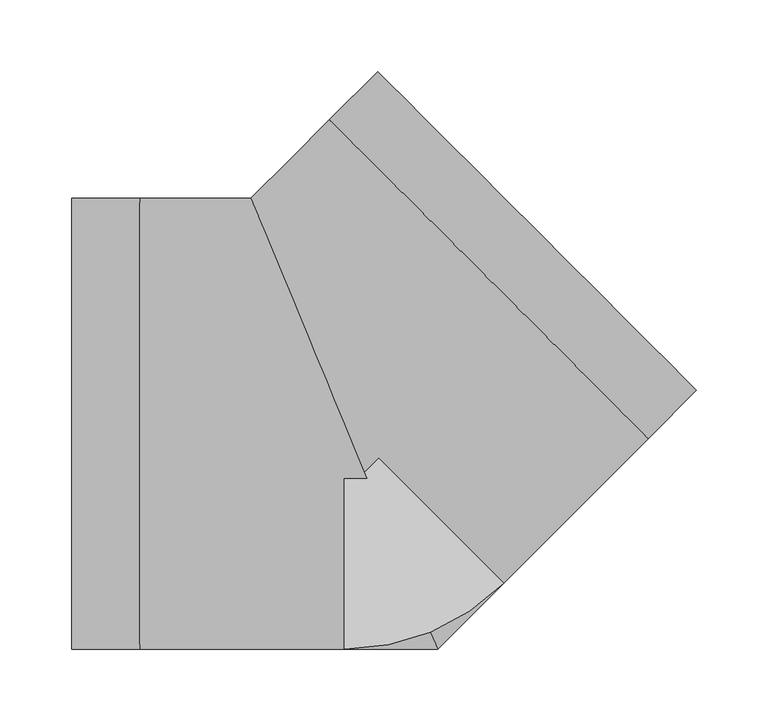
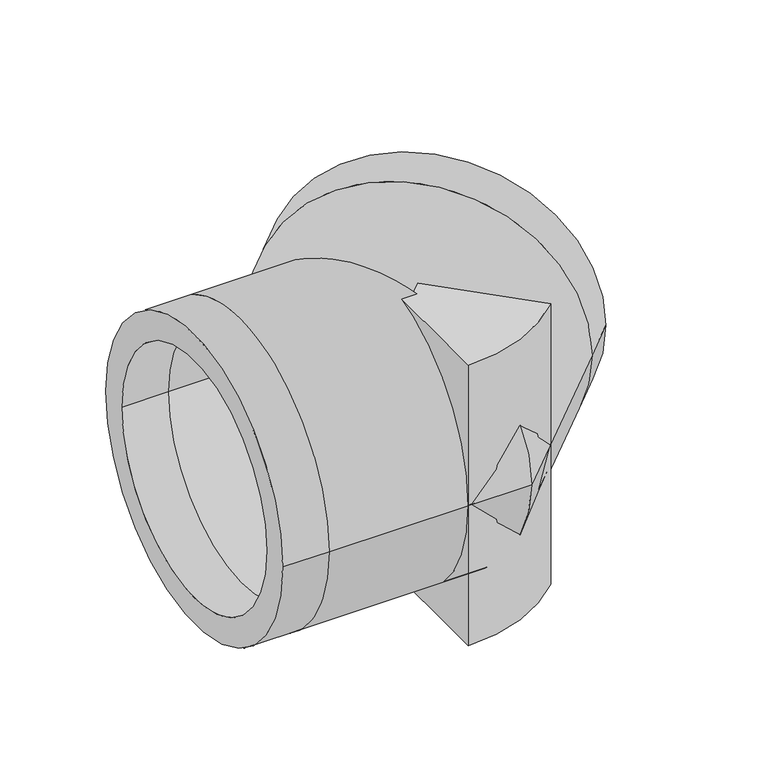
"""IFC4 building model written with IfcOpenShell, lengths in millimetres: pipe fitting geometry, Aquatherm - Elbow Green BW Segmented : SDR 11 NON-FASER."""

from ifc_helpers import new_model, si_unit, point, frame, origin, origin_with_axes, origin_2d, place, context, project, spatial, polyline, circle_curve, ellipse_curve, trimmed, segment, composite_curve, outline, extrude, source, transform, mapped, element, save
from ifc_brep_helpers import plane_surface, cylinder_surface, revolved_surface, advanced_brep


def pipe_fitting_091fbffe(model_context):
    return source(origin(), model_context, "Body", "SolidModel", [
        extrude(outline(composite_curve([segment(polyline([(0.0, -157.48), (0.0, 0.0), (111.3551759, -111.3551759)]), True, "CONTINUOUS"), segment(trimmed(circle_curve(origin_2d(), 157.48), [point((111.3551759, -111.3551759))], [point((0.0, -157.48))], False, "CARTESIAN"), True, "CONTINUOUS")], self_intersect=False)), frame((0.0, 0.0, -152.4), z_axis=(0.0, 0.0, 1.0), x_axis=(1.0, 0.0, 0.0)), (0.0, 0.0, 1.0), 152.4),
        extrude(outline(composite_curve([segment(trimmed(circle_curve(origin_2d(), 157.48), [point((111.3551759, -111.3551759))], [point((0.0, -157.48))], False, "CARTESIAN"), True, "CONTINUOUS"), segment(polyline([(0.0, -157.48), (0.0, 0.0), (111.3551759, -111.3551759)]), True, "CONTINUOUS")], self_intersect=False)), origin_with_axes(), (0.0, 0.0, 1.0), 152.4),
        advanced_brep(
        [(-190.5, -157.48, 0.0), (-190.5, 157.48, 0.0), (-190.5, -128.8472727, 0.0), (-190.5, 128.8472727, 0.0), (246.0590177, 23.3486659, 0.0), (23.3486659, 246.0590177, 0.0), (225.8126221, 43.5950615, 0.0), (43.5950615, 225.8126221, 0.0), (-142.875, -157.48, 0.0), (-142.875, 157.48, 0.0), (-142.875, -128.8472727, 0.0), (-142.875, 128.8472727, 0.0), (65.2303518, -157.48, 0.0), (-65.2303518, 157.48, 0.0), (53.3702878, -128.8472727, 0.0), (-53.3702878, 128.8472727, 0.0), (212.3830573, -10.3272945, 0.0), (-10.3272945, 212.3830573, 0.0), (192.1366616, 9.9191011, 0.0), (9.9191011, 192.1366616, 0.0)],
        [
            (0, 1, circle_curve(frame((-190.5, 0.0, 0.0), z_axis=(-1.0, 0.0, 0.0), x_axis=(0.0, 1.0, 0.0)), 157.48)),
            (1, 0, circle_curve(frame((-190.5, 0.0, 0.0), z_axis=(-1.0, 0.0, 0.0), x_axis=(0.0, 1.0, 0.0)), 157.48)),
            (2, 3, circle_curve(frame((-190.5, 0.0, 0.0), z_axis=(1.0, 0.0, 0.0), x_axis=(0.0, 1.0, 0.0)), 128.8472727)),
            (3, 2, circle_curve(frame((-190.5, 0.0, 0.0), z_axis=(1.0, 0.0, 0.0), x_axis=(0.0, 1.0, 0.0)), 128.8472727)),
            (4, 5, circle_curve(frame((134.7038418, 134.7038418, 0.0), z_axis=(0.7071067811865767, 0.7071067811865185, 0.0), x_axis=(-0.7071067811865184, 0.7071067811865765, 0.0)), 157.48)),
            (5, 4, circle_curve(frame((134.7038418, 134.7038418, 0.0), z_axis=(0.7071067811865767, 0.7071067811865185, 0.0), x_axis=(-0.7071067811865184, 0.7071067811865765, 0.0)), 157.48)),
            (6, 7, circle_curve(frame((134.7038418, 134.7038418, 0.0), z_axis=(-0.7071067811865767, -0.7071067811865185, 0.0), x_axis=(-0.7071067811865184, 0.7071067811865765, 0.0)), 128.8472727)),
            (7, 6, circle_curve(frame((134.7038418, 134.7038418, 0.0), z_axis=(-0.7071067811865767, -0.7071067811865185, 0.0), x_axis=(-0.7071067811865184, 0.7071067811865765, 0.0)), 128.8472727)),
            (0, 8),
            (8, 9, circle_curve(frame((-142.875, 0.0, 0.0), z_axis=(-1.0, 0.0, 0.0), x_axis=(0.0, 1.0, 0.0)), 157.48)),
            (9, 1),
            (9, 8, circle_curve(frame((-142.875, 0.0, 0.0), z_axis=(-1.0, 0.0, 0.0), x_axis=(0.0, 1.0, 0.0)), 157.48)),
            (2, 10),
            (10, 11, circle_curve(frame((-142.875, 0.0, 0.0), z_axis=(1.0, 0.0, 0.0), x_axis=(0.0, 1.0, 0.0)), 128.8472727)),
            (11, 3),
            (11, 10, circle_curve(frame((-142.875, 0.0, 0.0), z_axis=(1.0, 0.0, 0.0), x_axis=(0.0, 1.0, 0.0)), 128.8472727)),
            (8, 12),
            (12, 13, ellipse_curve(frame((0.0, 0.0, 0.0), z_axis=(-0.9238795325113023, -0.38268343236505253, 0.0), x_axis=(-0.3826834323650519, 0.9238795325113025, 0.0)), 170.4551237, 157.48)),
            (13, 9),
            (13, 12, ellipse_curve(frame((0.0, 0.0, 0.0), z_axis=(-0.9238795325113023, -0.38268343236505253, 0.0), x_axis=(-0.3826834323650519, 0.9238795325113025, 0.0)), 170.4551237, 157.48)),
            (10, 14),
            (14, 15, ellipse_curve(frame((0.0, 0.0, 0.0), z_axis=(0.9238795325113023, 0.38268343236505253, 0.0), x_axis=(0.3826834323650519, -0.9238795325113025, 0.0)), 139.463283, 128.8472727)),
            (15, 11),
            (15, 14, ellipse_curve(frame((0.0, 0.0, 0.0), z_axis=(0.9238795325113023, 0.38268343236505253, 0.0), x_axis=(0.3826834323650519, -0.9238795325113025, 0.0)), 139.463283, 128.8472727)),
            (12, 16),
            (16, 17, circle_curve(frame((101.0278814, 101.0278814, 0.0), z_axis=(-0.7071067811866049, -0.7071067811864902, 0.0), x_axis=(-0.7071067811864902, 0.7071067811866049, 0.0)), 157.48)),
            (17, 13),
            (17, 16, circle_curve(frame((101.0278814, 101.0278814, 0.0), z_axis=(-0.7071067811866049, -0.7071067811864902, 0.0), x_axis=(-0.7071067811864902, 0.7071067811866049, 0.0)), 157.48)),
            (14, 18),
            (18, 19, circle_curve(frame((101.0278814, 101.0278814, 0.0), z_axis=(0.7071067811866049, 0.7071067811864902, 0.0), x_axis=(-0.7071067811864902, 0.7071067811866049, 0.0)), 128.8472727)),
            (19, 15),
            (19, 18, circle_curve(frame((101.0278814, 101.0278814, 0.0), z_axis=(0.7071067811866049, 0.7071067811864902, 0.0), x_axis=(-0.7071067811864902, 0.7071067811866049, 0.0)), 128.8472727)),
            (16, 4),
            (5, 17),
            (18, 6),
            (7, 19),
        ],
        [
            plane_surface(frame((-190.5, 0.0, 0.0), z_axis=(-1.0, 0.0, 0.0), x_axis=(0.0, 0.0, 1.0))),
            plane_surface(frame((134.7038418, 134.7038418, 0.0), z_axis=(0.7071067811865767, 0.7071067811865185, 0.0), x_axis=(0.0, 0.0, 1.0))),
            cylinder_surface(frame((-190.5, 0.0, 0.0), z_axis=(-1.0, 0.0, 0.0), x_axis=(0.0, 1.0, 0.0)), 157.48),
            revolved_surface(polyline([(-142.875, 128.8472727, 0.0), (-190.5, 128.8472727, 0.0)]), (-190.5, 0.0, 0.0), (1.0, 0.0, 0.0)),
            cylinder_surface(frame((-142.875, 0.0, 0.0), z_axis=(-1.0, 0.0, 0.0), x_axis=(0.0, 1.0, 0.0)), 157.48),
            revolved_surface(polyline([(53.370287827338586, 128.8472727, 0.0), (-142.875, 128.8472727, 0.0)]), (-142.875, 0.0, 0.0), (1.0, 0.0, 0.0)),
            cylinder_surface(frame((0.0, 0.0, 0.0), z_axis=(-0.7071067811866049, -0.7071067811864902, 0.0), x_axis=(-0.7071067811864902, 0.7071067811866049, 0.0)), 157.48),
            revolved_surface(polyline([(9.919101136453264, 192.13666166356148, 0.0), (-128.84727271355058, 53.370287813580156, 0.0)]), (0.0, 0.0, 0.0), (0.7071067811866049, 0.7071067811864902, 0.0)),
            cylinder_surface(frame((101.0278814, 101.0278814, 0.0), z_axis=(-0.7071067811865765, -0.7071067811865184, 0.0), x_axis=(-0.7071067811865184, 0.7071067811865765, 0.0)), 157.48),
            revolved_surface(polyline([(43.59506153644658, 225.8126220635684, 0.0), (9.9191010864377, 192.1366616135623, 0.0)]), (101.0278814, 101.0278814, 0.0), (0.7071067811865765, 0.7071067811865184, 0.0)),
        ],
        [
            (0, [[1, 2], [3, 4]]),
            (1, [[5, 6], [7, 8]]),
            (2, [[-1, 9, 10, 11]]),
            (2, [[-2, -11, 12, -9]]),
            (3, [[-3, 13, 14, 15]]),
            (3, [[-4, -15, 16, -13]]),
            (4, [[-10, 17, 18, 19]]),
            (4, [[-12, -19, 20, -17]]),
            (5, [[-14, 21, 22, 23]]),
            (5, [[-16, -23, 24, -21]]),
            (6, [[-18, 25, 26, 27]]),
            (6, [[-20, -27, 28, -25]]),
            (7, [[-22, 29, 30, 31]]),
            (7, [[-24, -31, 32, -29]]),
            (8, [[-26, 33, -6, 34]]),
            (8, [[-28, -34, -5, -33]]),
            (9, [[-30, 35, -8, 36]]),
            (9, [[-32, -36, -7, -35]]),
        ],
    ),
    ])


if __name__ == "__main__":
    model = new_model("IFC4")
    model_context = context("Model", 3, world=origin())
    ifc_project = project(units=[si_unit("LENGTHUNIT", "METRE", prefix="MILLI")], contexts=[model_context])
    site = spatial("IfcSite", under=ifc_project)
    building = spatial("IfcBuilding", under=site)
    placement = place(None, origin())
    pipe_fitting_shape = pipe_fitting_091fbffe(model_context)
    element("IfcPipeFitting", 1, ObjectType="Aquatherm - Elbow Green BW Segmented : SDR 11 NON-FASER", at=placement, inside=building, context=model_context, shape_type="MappedRepresentation", body=[
        mapped(pipe_fitting_shape, transform((0.0, 0.0, 0.0), x_axis=(1.0, 0.0, 0.0), y_axis=(0.0, 1.0, 0.0), z_axis=(0.0, 0.0, 1.0))),
    ])
    save(model, "model.ifc")
